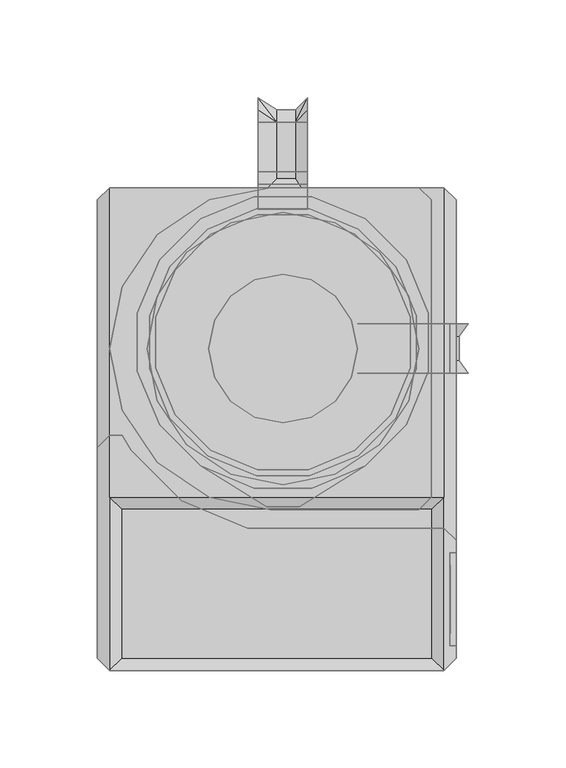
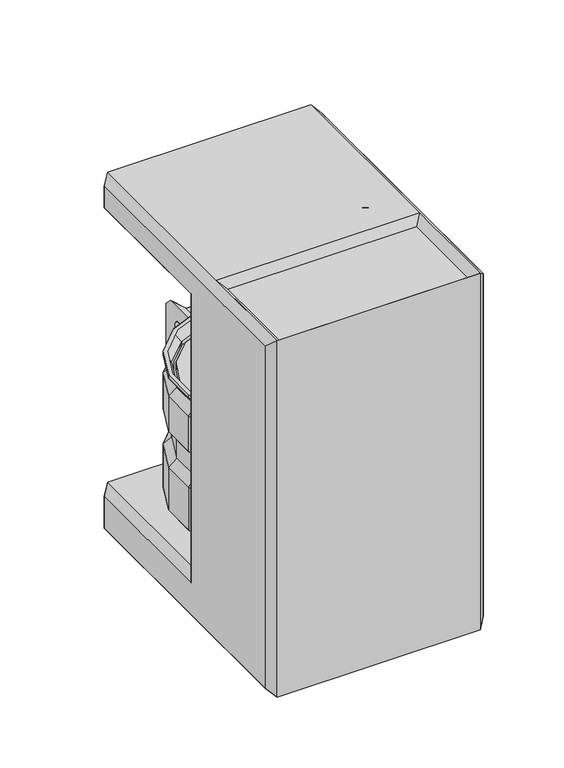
"""IFC4 building model written with IfcOpenShell, lengths in millimetres: proxy geometry, 咖啡機 : 咖啡機."""

import ifcopenshell
import ifcopenshell.guid

model = None  # the IFC model being written
_history = None  # IfcOwnerHistory: only IFC2X3 demands one
_inside = {}  # id of a spatial element -> (the spatial element, [elements in it])
_under = {}  # id of a project, library or spatial element -> (it, [spatial elements below it])
_declared = {}  # id of a project -> (the project, [libraries it declares])
_typed = {}  # id of a type object -> (the type object, [elements of that type])
_made_of = {}  # id of a material, layer set ... -> (it, [elements and type objects made of it])


def new_model(schema):
    """Start an empty IFC model of exactly this schema.

    Asked for "IFC4X3", IfcOpenShell would pick the latest addendum, in which some entities
    have other attributes; the version numbers below select the first issue.
    IFC2X3 requires an IfcOwnerHistory on every rooted entity: one is made here for all.
    """
    global model, _history
    if schema == "IFC4X3":
        model = ifcopenshell.file(schema_version=(4, 3, 0, 0))
    else:
        model = ifcopenshell.file(schema=schema)
    _inside.clear()
    _under.clear()
    _declared.clear()
    _typed.clear()
    _made_of.clear()
    _history = None
    if model.schema == "IFC2X3":
        org = make("IfcOrganization", Name="unknown")
        user = make(
            "IfcPersonAndOrganization",
            ThePerson=make("IfcPerson", FamilyName="unknown"),
            TheOrganization=org,
        )
        app = make(
            "IfcApplication",
            ApplicationDeveloper=org,
            Version="unknown",
            ApplicationFullName="unknown",
            ApplicationIdentifier="unknown",
        )
        _history = make(
            "IfcOwnerHistory",
            OwningUser=user,
            OwningApplication=app,
            ChangeAction="ADDED",
            CreationDate=0,
        )
    return model


def make(cls, **values):
    """One entity of the class cls with the attributes given. An attribute that is None is left unset."""
    return model.create_entity(
        cls, **{name: value for name, value in values.items() if value is not None}
    )


def rooted(cls, **values):
    """An entity with a GlobalId (a new one), such as an element, a storey or a relation."""
    return make(cls, GlobalId=ifcopenshell.guid.new(), OwnerHistory=_history, **values)


def si_unit(unit_type, name, prefix=None):
    """IfcSIUnit, for example si_unit("LENGTHUNIT", "METRE", prefix="MILLI")."""
    return make("IfcSIUnit", UnitType=unit_type, Prefix=prefix, Name=name)


def assignment(units):
    """IfcUnitAssignment: the units of a project."""
    return None if units is None else make("IfcUnitAssignment", Units=units)


def point(xyz):
    """IfcCartesianPoint."""
    return None if xyz is None else make("IfcCartesianPoint", Coordinates=xyz)


def direction(xyz):
    """IfcDirection."""
    return None if xyz is None else make("IfcDirection", DirectionRatios=xyz)


def frame(location, z_axis=None, x_axis=None):
    """IfcAxis2Placement3D, a coordinate frame: its origin and axes. An axis left out is left unset."""
    return make(
        "IfcAxis2Placement3D",
        Location=point(location),
        Axis=direction(z_axis),
        RefDirection=direction(x_axis),
    )


def origin():
    """The frame at (0, 0, 0) with its axes left unset."""
    return frame((0.0, 0.0, 0.0))


def place(relative_to, where):
    """IfcLocalPlacement: puts the frame where relative to a parent placement (None: the world)."""
    return make(
        "IfcLocalPlacement", PlacementRelTo=relative_to, RelativePlacement=where
    )


def context(
    kind, dimensions, precision=None, world=None, true_north=None, identifier=None
):
    """IfcGeometricRepresentationContext, for example the 3D "Model" context."""
    return make(
        "IfcGeometricRepresentationContext",
        ContextIdentifier=identifier,
        ContextType=kind,
        CoordinateSpaceDimension=dimensions,
        Precision=precision,
        WorldCoordinateSystem=world,
        TrueNorth=true_north,
    )


def project(units=None, contexts=None):
    """IfcProject with its units and contexts."""
    return rooted(
        "IfcProject",
        Name="project",
        RepresentationContexts=contexts,
        UnitsInContext=assignment(units),
    )


def spatial(cls, under=None, at=None, **own):
    """A site, building, storey or space (cls), placed at a placement, below another one or the project."""
    s = rooted(cls, ObjectPlacement=at, **own)
    if under is not None:
        _under.setdefault(under.id(), (under, []))[1].append(s)
    return s


def point_list(points):
    """IfcCartesianPointList2D or 3D."""
    cls = (
        "IfcCartesianPointList2D" if len(points[0]) == 2 else "IfcCartesianPointList3D"
    )
    return make(cls, CoordList=points)


def triangles(points, corners, closed=None, point_numbers=None):
    """IfcTriangulatedFaceSet: each triangle names its three corners, points numbered from 1."""
    return make(
        "IfcTriangulatedFaceSet",
        Coordinates=point_list(points),
        Closed=closed,
        CoordIndex=corners,
        PnIndex=point_numbers,
    )


def shape(context_of_items, identifier, shape_type, items):
    """IfcShapeRepresentation: the items that make up one representation, for example the "Body"."""
    return make(
        "IfcShapeRepresentation",
        ContextOfItems=context_of_items,
        RepresentationIdentifier=identifier,
        RepresentationType=shape_type,
        Items=items,
    )


def source(mapping_origin, context_of_items, identifier, shape_type, items):
    """IfcRepresentationMap: a shape defined once, which mapped items show again and again."""
    return make(
        "IfcRepresentationMap",
        MappingOrigin=mapping_origin,
        MappedRepresentation=shape(context_of_items, identifier, shape_type, items),
    )


def transform(
    local_origin,
    x_axis=None,
    y_axis=None,
    z_axis=None,
    scale=None,
    scale2=None,
    scale3=None,
    uniform=True,
):
    """IfcCartesianTransformationOperator3D, or its non-uniform kind. x_axis, y_axis, z_axis: its Axis1, 2, 3."""
    if uniform:
        return make(
            "IfcCartesianTransformationOperator3D",
            Axis1=direction(x_axis),
            Axis2=direction(y_axis),
            LocalOrigin=point(local_origin),
            Scale=scale,
            Axis3=direction(z_axis),
        )
    return make(
        "IfcCartesianTransformationOperator3DnonUniform",
        Axis1=direction(x_axis),
        Axis2=direction(y_axis),
        LocalOrigin=point(local_origin),
        Scale=scale,
        Axis3=direction(z_axis),
        Scale2=scale2,
        Scale3=scale3,
    )


def mapped(mapping_source, mapping_target):
    """IfcMappedItem: shows the shape of a source again, moved by a transform."""
    return make(
        "IfcMappedItem", MappingSource=mapping_source, MappingTarget=mapping_target
    )


def made_of(thing, what):
    """Note that an element or type object is made of a material, layer set ...; save() writes the relation."""
    if what is not None:
        _made_of.setdefault(what.id(), (what, []))[1].append(thing)
    return thing


def element(
    cls,
    number,
    at=None,
    inside=None,
    cuts=None,
    type_object=None,
    material=None,
    context=None,
    identifier="Body",
    shape_type=None,
    held_by="IfcProductDefinitionShape",
    body=None,
    shapes=None,
    **own,
):
    """One element of the class cls, such as IfcWall. Its Tag is "e" and its number.

    at: its placement. inside: the storey or other place that contains it. cuts: it is an
    opening in that element (IfcRelVoidsElement). A single representation is given by context,
    identifier, shape_type and body (its items); several are given by shapes. held_by: the class
    of the entity that holds the representations. save() writes the other relations.
    """
    e = rooted(cls, Tag="e%d" % number, ObjectPlacement=at, **own)
    if body is not None:
        shapes = [shape(context, identifier, shape_type, body)]
    if shapes is not None:
        e.Representation = make(held_by, Representations=shapes)
    if inside is not None:
        _inside.setdefault(inside.id(), (inside, []))[1].append(e)
    if cuts is not None:
        rooted(
            "IfcRelVoidsElement", RelatingBuildingElement=cuts, RelatedOpeningElement=e
        )
    if type_object is not None:
        _typed.setdefault(type_object.id(), (type_object, []))[1].append(e)
    return made_of(e, material)


def aggregate(whole, parts):
    """IfcRelAggregates: a whole, such as a stair, and the parts it consists of."""
    return rooted("IfcRelAggregates", RelatingObject=whole, RelatedObjects=parts)


def save(model, path):
    """Write the relations noted so far, then the file.

    IfcRelAggregates (storeys below a building ...), IfcRelContainedInSpatialStructure (elements
    in a storey), IfcRelDefinesByType, IfcRelAssociatesMaterial and IfcRelDeclares: one each for
    every whole, place, type object, material and project.
    """
    for whole, parts in _under.values():
        aggregate(whole, parts)
    for where, things in _inside.values():
        rooted(
            "IfcRelContainedInSpatialStructure",
            RelatedElements=things,
            RelatingStructure=where,
        )
    for kind, things in _typed.values():
        rooted("IfcRelDefinesByType", RelatedObjects=things, RelatingType=kind)
    for what, things in _made_of.values():
        rooted("IfcRelAssociatesMaterial", RelatedObjects=things, RelatingMaterial=what)
    for by, libraries in _declared.values():
        rooted("IfcRelDeclares", RelatingContext=by, RelatedDefinitions=libraries)
    model.write(path)


def specialty_equipment_c866d2f4(model_context):
    return source(origin(), model_context, "Body", "Tessellation", [
        triangles([(165.1000061, 247.65, 282.5749939), (165.1000061, 247.65, 285.75), (171.45, 241.3000061, 285.7499818), (171.45, 241.3000061, 282.5749758), (144.6414165, 214.4914135, 282.5749939), (144.6414165, 214.4914135, 285.75), (121.9804451, 229.6329856, 285.75), (121.9804451, 229.6329856, 282.5749939), (159.7829796, 191.830442, 285.75), (159.7829796, 191.830442, 282.5749939), (68.519564, 229.6329856, 282.5749939), (57.3094788, 241.3662447, 282.5749758), (95.25, 234.9499939, 282.5749758), (88.899997, 247.65, 282.5749939), (57.3094788, 241.3662447, 285.7499818), (68.519564, 229.6329856, 285.75), (88.899997, 247.65, 285.75), (95.25, 234.9499939, 285.7499818), (45.8585926, 214.4914135, 285.75), (45.8585926, 214.4914135, 282.5749939), (165.1000061, 177.7999939, 282.5749939), (169.8625061, 171.45, 282.5749758), (184.1500061, 177.7999939, 282.5749939), (180.975, 171.45, 279.4000061), (190.5, 177.7999939, 276.225), (180.975, 177.7999939, 273.0499939), (177.7999939, 177.7999939, 276.225), (162.3176541, 177.7999939, 276.225), (185.7375, 171.45, 274.6375061), (165.1000061, 82.5500121, 282.5749939), (165.1000061, 82.5500121, 285.75), (171.45, 88.9000151, 282.5749939), (171.45, 88.9000151, 285.75), (68.519564, 100.5670265, 282.5749758), (57.3094788, 88.8337583, 282.5749939), (95.25, 95.2500091, 282.5749939), (88.899997, 82.5500121, 282.5749939), (57.3094788, 88.8337583, 285.75), (68.519564, 100.5670265, 285.7499818), (88.899997, 82.5500121, 285.75), (95.25, 95.2500091, 285.75), (159.7829796, 138.369561, 282.5749939), (159.7829796, 138.369561, 285.75), (144.6414165, 115.7085895, 285.75), (144.6414165, 115.7085895, 282.5749939), (121.9804451, 100.5670265, 285.7499818), (121.9804451, 100.5670265, 282.5749758), (45.8585926, 115.7085895, 285.75), (45.8585926, 115.7085895, 282.5749939), (165.1000061, 165.1000061, 282.5749939), (165.1000061, 165.1000061, 285.75), (180.975, 158.7499939, 279.4000061), (169.8625061, 158.7499939, 282.5749939), (184.1500061, 152.4, 282.5749939), (165.1000061, 152.4, 282.5749939), (180.975, 152.4, 273.0499939), (190.5, 152.4, 276.225), (177.7999939, 152.4, 276.225), (162.3176541, 152.4, 276.225), (185.7375, 158.7499939, 274.6375061), (12.6337435, 196.6905197, 285.75), (12.6337435, 196.6905197, 282.5749939), (30.5283328, 223.4716611, 282.5749939), (30.5283328, 223.4716611, 285.75), (25.4000008, 165.1000061, 282.5749939), (6.3500002, 165.1000061, 282.5749939), (30.7170136, 138.369561, 282.5749939), (12.6337435, 133.5094834, 282.5749939), (6.3500002, 165.1000061, 285.75), (25.4000008, 165.1000061, 285.75), (12.6337435, 133.5094834, 285.75), (30.7170136, 138.369561, 285.75), (30.5283328, 106.7283328, 282.5749939), (30.5283328, 106.7283328, 285.75), (30.7170136, 191.830442, 282.5749939), (30.7170136, 191.830442, 285.75), (180.975, 152.4, 193.6749879), (180.975, 177.7999939, 193.6749879), (177.7999939, 177.7999939, 190.4999818), (177.7999939, 152.4, 190.4999818), (180.975, 158.7499939, 185.7374818), (180.975, 171.45, 185.7374818), (185.7375, 158.7499939, 190.4999818), (185.7375, 171.45, 190.4999818), (133.35, 152.4, 190.4999818), (133.35, 177.7999939, 190.4999818), (133.35, 158.7499939, 185.7374818), (133.35, 171.45, 185.7374818), (95.25, 203.2000061, 212.7250061), (80.6697581, 200.2998197, 212.7250061), (109.8302419, 200.2998197, 212.7250061), (122.1907702, 192.0407671, 212.7250061), (130.4498137, 179.6802389, 212.7250061), (133.35, 165.1000061, 212.7250061), (130.4498137, 150.5197641, 212.7250061), (122.1907702, 138.1592268, 212.7250061), (109.8302419, 129.9001833, 212.7250061), (95.25, 126.999997, 212.7250061), (80.6697581, 129.9001833, 212.7250061), (60.0501909, 179.6802389, 212.7250061), (57.15, 165.1000061, 212.7250061), (68.3092344, 192.0407671, 212.7250061), (68.3092344, 138.1592268, 212.7250061), (60.0501909, 150.5197641, 212.7250061), (190.5, 152.4, 187.3249939), (190.5, 177.7999939, 187.3249939), (184.1500061, 177.7999939, 180.9749818), (184.1500061, 152.4, 180.9749818), (133.35, 177.7999939, 180.9749818), (133.35, 152.4, 180.9749818), (95.25, 203.2000061, 174.6249879), (80.6697581, 200.2998197, 174.6249879), (68.3092344, 192.0407671, 174.6249879), (60.0501909, 179.6802389, 174.6249879), (57.15, 165.1000061, 174.6249879), (109.8302419, 200.2998197, 174.6249879), (122.1907702, 192.0407671, 174.6249879), (130.4498137, 179.6802389, 174.6249879), (133.35, 165.1000061, 174.6249879), (130.4498137, 150.5197641, 174.6249879), (122.1907702, 138.1592268, 174.6249879), (109.8302419, 129.9001833, 174.6249879), (95.25, 126.999997, 174.6249879), (80.6697581, 129.9001833, 174.6249879), (68.3092344, 138.1592268, 174.6249879), (60.0501909, 150.5197641, 174.6249879)], [[1, 2, 3], [3, 4, 1], [5, 6, 7], [7, 8, 5], [9, 10, 6], [6, 5, 10], [11, 12, 13], [14, 13, 12], [15, 16, 17], [18, 17, 16], [12, 15, 14], [17, 14, 15], [8, 7, 18], [18, 13, 8], [16, 11, 18], [13, 18, 11], [19, 20, 16], [11, 16, 20], [13, 14, 1], [1, 8, 13], [17, 18, 2], [7, 2, 18], [14, 17, 2], [2, 1, 14], [8, 1, 5], [4, 5, 1], [2, 7, 6], [6, 3, 2], [21, 22, 23], [23, 22, 24], [25, 26, 23], [27, 23, 26], [23, 27, 28], [28, 21, 23], [23, 24, 29], [29, 25, 23], [30, 31, 32], [33, 32, 31], [34, 35, 36], [37, 36, 35], [38, 39, 40], [41, 40, 39], [35, 38, 37], [40, 37, 38], [42, 43, 44], [44, 45, 42], [45, 44, 46], [46, 47, 45], [47, 46, 41], [41, 36, 47], [39, 34, 41], [36, 41, 34], [48, 49, 39], [34, 39, 49], [36, 37, 30], [30, 47, 36], [40, 41, 31], [46, 31, 41], [37, 40, 30], [31, 30, 40], [50, 51, 43], [43, 42, 50], [42, 45, 32], [42, 32, 50], [44, 43, 33], [33, 43, 51], [47, 30, 45], [32, 45, 30], [31, 46, 44], [44, 33, 31], [52, 53, 54], [54, 53, 55], [56, 57, 54], [54, 58, 56], [58, 54, 59], [55, 59, 54], [52, 54, 57], [57, 60, 52], [52, 24, 22], [22, 53, 52], [32, 4, 50], [6, 9, 3], [9, 3, 51], [3, 33, 51], [5, 10, 4], [4, 10, 50], [32, 33, 3], [4, 3, 32], [51, 50, 9], [10, 9, 50], [58, 27, 26], [26, 56, 58], [59, 28, 58], [27, 58, 28], [60, 29, 52], [24, 52, 29], [61, 62, 63], [63, 64, 61], [65, 66, 67], [68, 67, 66], [69, 70, 71], [72, 71, 70], [66, 69, 68], [71, 68, 69], [68, 71, 73], [74, 73, 71], [70, 65, 72], [67, 72, 65], [66, 65, 75], [75, 62, 66], [70, 69, 61], [61, 76, 70], [69, 66, 62], [62, 61, 69], [65, 70, 76], [76, 75, 65], [76, 61, 64], [64, 19, 76], [62, 75, 20], [20, 63, 62], [75, 76, 19], [20, 19, 75], [67, 68, 49], [73, 49, 68], [71, 72, 74], [48, 74, 72], [72, 67, 48], [49, 48, 67], [19, 64, 15], [16, 15, 19], [49, 73, 34], [35, 34, 73], [74, 48, 38], [39, 38, 48], [63, 20, 11], [11, 12, 63], [64, 63, 12], [15, 12, 64], [73, 74, 35], [38, 35, 74], [77, 78, 79], [79, 80, 77], [81, 82, 83], [84, 83, 82], [80, 79, 85], [86, 85, 79], [87, 88, 82], [82, 81, 87], [89, 13, 90], [11, 90, 13], [91, 8, 89], [89, 13, 8], [92, 5, 91], [8, 91, 5], [93, 10, 92], [5, 92, 10], [94, 50, 93], [10, 93, 50], [95, 42, 94], [94, 50, 42], [96, 45, 95], [95, 42, 45], [97, 47, 96], [45, 96, 47], [98, 36, 97], [97, 47, 36], [99, 34, 98], [98, 36, 34], [100, 75, 101], [101, 65, 75], [102, 20, 100], [75, 100, 20], [90, 11, 102], [20, 102, 11], [103, 49, 99], [99, 34, 49], [104, 67, 103], [103, 49, 67], [101, 65, 104], [67, 104, 65], [60, 57, 83], [105, 83, 57], [77, 105, 56], [57, 56, 105], [106, 78, 26], [26, 25, 106], [25, 29, 106], [84, 106, 29], [56, 26, 77], [78, 77, 26], [83, 84, 29], [29, 60, 83], [107, 79, 106], [78, 106, 79], [80, 108, 105], [105, 77, 80], [82, 107, 84], [106, 84, 107], [108, 81, 83], [83, 105, 108], [88, 109, 107], [107, 82, 88], [109, 86, 79], [79, 107, 109], [110, 87, 108], [81, 108, 87], [85, 110, 80], [108, 80, 110], [111, 89, 112], [90, 112, 89], [112, 90, 113], [102, 113, 90], [114, 100, 115], [101, 115, 100], [113, 102, 114], [100, 114, 102], [116, 91, 111], [89, 111, 91], [117, 92, 116], [91, 116, 92], [118, 93, 117], [92, 117, 93], [119, 94, 118], [93, 118, 94], [120, 95, 119], [94, 119, 95], [121, 96, 120], [95, 120, 96], [122, 97, 121], [96, 121, 97], [123, 98, 122], [97, 122, 98], [124, 99, 123], [98, 123, 99], [125, 103, 124], [99, 124, 103], [126, 104, 125], [103, 125, 104], [115, 101, 126], [104, 126, 101]], closed=False),
        triangles([(137.5844527, 231.6329726, 171.45), (137.5844527, 231.6329726, 168.2749939), (110.1158804, 243.0108391, 168.2749939), (110.1158804, 243.0108391, 171.4499818), (109.4964687, 239.8968395, 171.4499818), (80.3841196, 243.0108391, 171.4499818), (81.0035313, 239.8968395, 171.4499818), (80.3841196, 243.0108391, 168.2749939), (52.9155519, 231.6329726, 168.2749939), (52.9155519, 231.6329726, 171.45), (108.8770661, 236.7828581, 161.9249818), (108.8770661, 236.7828581, 158.7499939), (81.622943, 236.7828581, 158.7499939), (81.622943, 236.7828581, 161.9249818), (110.1158804, 243.0108391, 152.3999909), (80.3841196, 243.0108391, 152.3999909), (34.5319288, 208.845519, 171.45), (31.8920146, 210.6094557, 171.45), (20.5141616, 183.1408743, 171.45), (23.6281544, 182.5214717, 171.45), (31.8920146, 210.6094557, 168.2749939), (20.5141616, 183.1408743, 168.2749939), (153.3281592, 207.0815642, 161.925), (153.3281592, 207.0815642, 158.7499939), (134.0565793, 226.353135, 158.7499939), (134.0565793, 226.353135, 161.925), (56.4434161, 226.353135, 161.925), (56.4434161, 226.353135, 158.7499939), (37.1718476, 207.0815642, 158.7499939), (37.1718476, 207.0815642, 161.925), (26.7421472, 181.9020691, 158.7499939), (26.7421472, 181.9020691, 161.925), (31.8920146, 210.6094557, 152.4), (20.5141616, 183.1408743, 152.4), (23.6281544, 154.0285343, 171.45), (20.5141616, 153.4091136, 171.45), (31.8920146, 125.9405413, 171.45), (34.5319288, 127.704487, 171.45), (20.5141616, 153.4091136, 168.2749939), (31.8920146, 125.9405413, 168.2749939), (26.7421472, 154.6479369, 161.925), (26.7421472, 154.6479369, 158.7499939), (37.1718476, 129.4684146, 158.7499939), (37.1718476, 129.4684146, 161.925), (20.5141616, 153.4091136, 152.4), (31.8920146, 125.9405413, 152.4), (135.820516, 228.9930719, 171.45), (54.6794795, 228.9930719, 171.45), (137.5844527, 231.6329726, 152.4), (52.9155519, 231.6329726, 152.4), (31.8920146, 210.6094557, 120.650003), (20.5141616, 183.1408743, 120.650003), (52.9155519, 231.6329726, 120.650003), (80.3841196, 243.0108391, 120.6499849), (110.1158804, 243.0108391, 120.6499849), (107.949997, 243.0109481, 120.6499849), (82.550003, 243.0109481, 120.6499849), (82.550003, 243.0109481, 152.3999909), (107.949997, 243.0109481, 152.3999909), (137.5844527, 231.6329726, 120.650003), (20.5141616, 153.4091136, 120.650003), (31.8920146, 125.9405413, 120.650003), (103.1464657, 87.1281665, 168.2750121), (103.7658774, 84.014176, 168.2750121), (137.5844527, 104.9170244, 171.45), (135.820516, 107.556925, 171.45), (87.3535252, 87.1281665, 168.2750121), (86.7341226, 84.014176, 168.2750121), (52.9155519, 104.9170244, 171.45), (54.6794795, 107.556925, 171.45), (108.8770661, 99.7671571, 158.7499939), (108.8770661, 99.7671571, 155.5750061), (134.0565793, 110.1968438, 158.7499939), (134.0565793, 110.1968438, 161.925), (86.7341226, 84.014176, 165.1000061), (81.622943, 99.7671571, 158.7499939), (103.7658774, 84.014176, 165.1000061), (56.4434161, 110.1968438, 161.925), (56.4434161, 110.1968438, 158.7499939), (81.622943, 99.7671571, 155.5750061), (110.1158804, 93.539176, 152.4000182), (137.5844527, 104.9170244, 152.4), (80.3841196, 93.539176, 152.4000182), (52.9155519, 104.9170244, 152.4), (137.5844527, 104.9170244, 168.2749939), (52.9155519, 104.9170244, 168.2749939), (80.3841196, 93.5391578, 120.6500121), (110.1158804, 93.5391578, 120.6500121), (52.9155519, 104.9170244, 120.650003), (137.5844527, 104.9170244, 120.650003), (153.3281592, 129.4684146, 158.7499939), (153.3281592, 129.4684146, 161.925), (107.949997, 243.0109481, 88.899997), (82.550003, 243.0109481, 88.899997), (107.949997, 236.660936, 95.2499909), (82.550003, 236.660936, 95.2499909), (108.8770661, 236.7828581, 95.2499909), (110.1158804, 243.0108391, 88.899997), (80.3841196, 243.0108391, 88.899997), (81.622943, 236.7828581, 95.2499909), (37.1718476, 207.0815642, 95.2499909), (31.8920146, 210.6094557, 88.899997), (20.5141616, 183.1408743, 88.899997), (26.7421472, 181.9020691, 95.25), (26.7421472, 154.6479369, 95.25), (20.5141616, 153.4091136, 88.899997), (31.8920146, 125.9405413, 88.9000061), (37.1718476, 129.4684146, 95.25), (134.0565793, 226.353135, 95.2499909), (137.5844527, 231.6329726, 88.899997), (52.9155519, 231.6329726, 88.899997), (56.4434161, 226.353135, 95.2499909), (108.8770661, 99.7671571, 95.2500091), (110.1158804, 93.5391669, 88.9000061), (137.5844527, 104.9170244, 88.9000061), (134.0565793, 110.1968438, 95.2500091), (56.4434161, 110.1968438, 95.2500091), (52.9155519, 104.9170244, 88.9000061), (80.3841196, 93.5391669, 88.9000061), (81.622943, 99.7671571, 95.2500091), (134.0565793, 226.353135, 114.3), (108.8770661, 236.7828581, 114.2999909), (107.949997, 236.660936, 114.2999909), (82.550003, 236.660936, 114.2999909), (81.622943, 236.7828581, 114.2999909), (56.4434161, 226.353135, 114.3), (37.1718476, 207.0815642, 114.3), (26.7421472, 181.9020691, 114.3), (108.8770661, 99.767148, 114.3), (134.0565793, 110.1968438, 114.3), (37.1718476, 129.4684146, 114.3), (56.4434161, 110.1968438, 114.3), (81.622943, 99.767148, 114.3), (26.7421472, 154.6479369, 114.3), (169.985827, 183.1408743, 171.45), (169.985827, 183.1408743, 168.2749939), (158.6079786, 210.6094557, 168.2749939), (158.6079786, 210.6094557, 171.45), (158.6079786, 125.9405413, 171.45), (158.6079786, 125.9405413, 168.2749939), (169.985827, 153.4091136, 168.2749939), (169.985827, 153.4091136, 171.45), (166.8718456, 154.0285343, 171.45), (166.8718456, 182.5214717, 171.45), (163.757846, 154.6479369, 161.925), (163.757846, 181.9020691, 161.925), (163.757846, 154.6479369, 158.7499939), (163.757846, 181.9020691, 158.7499939), (169.985827, 153.4091136, 152.4), (169.985827, 183.1408743, 152.4), (169.985827, 183.1408743, 120.650003), (158.6079786, 210.6094557, 120.650003), (158.6079786, 210.6094557, 152.4), (158.6079786, 125.9405413, 152.4), (158.6079786, 125.9405413, 120.650003), (169.985827, 153.4091136, 120.650003), (163.757846, 154.6479369, 95.25), (169.985827, 153.4091136, 88.899997), (169.985827, 183.1408743, 88.899997), (163.757846, 181.9020691, 95.25), (163.757846, 154.6479369, 114.3), (163.757846, 181.9020691, 114.3), (155.968078, 208.845519, 171.45), (158.6079786, 210.6094557, 88.899997), (153.3281592, 207.0815642, 95.2499909), (153.3281592, 207.0815642, 114.3), (155.968078, 127.704487, 171.45), (158.6079786, 125.9405413, 88.9000061), (153.3281592, 129.4684146, 95.25), (153.3281592, 129.4684146, 114.3), (110.1158804, 243.0108391, 50.8000015), (108.8770661, 236.7828581, 44.4499939), (81.622943, 236.7828581, 44.4499939), (80.3841196, 243.0108391, 50.8000015), (37.1718476, 207.0815642, 44.4499985), (50.3714303, 198.261899, 44.4499985), (42.3121157, 178.8050016, 44.4500076), (26.7421472, 181.9020691, 44.4499985), (56.4434161, 226.353135, 44.4499939), (65.2630949, 213.1535773, 44.450003), (31.8920146, 210.6094557, 50.8000015), (20.5141616, 183.1408743, 50.799997), (153.3281592, 207.0815642, 44.4499985), (140.1285743, 198.261899, 44.4499985), (125.2369051, 213.1535773, 44.450003), (134.0565793, 226.353135, 44.4499939), (55.6512588, 194.7340257, 38.0999977), (48.5401013, 177.5661783, 38.1000045), (68.7909682, 207.8737397, 38.1000045), (84.7200014, 221.2128782, 44.4499939), (85.9588248, 214.9848972, 38.1000045), (105.7799986, 221.2128782, 44.4499939), (104.5411752, 214.9848972, 38.1000045), (134.8487457, 194.7340257, 38.0999977), (121.7090318, 207.8737397, 38.1000045), (148.1878934, 178.8050016, 44.4500076), (141.9599032, 177.5661783, 38.1000045), (26.7421472, 154.6479369, 44.4499985), (42.3121157, 157.7450044, 44.4499985), (50.3714303, 138.2880979, 44.450003), (37.1718476, 129.4684146, 44.450003), (20.5141616, 153.4091136, 50.8000015), (31.8920146, 125.9405413, 50.8000106), (65.2630949, 123.3964288, 44.450003), (68.7909682, 128.6762573, 38.1000045), (85.9588248, 121.5650998, 38.1000045), (84.7200014, 115.3371097, 44.450003), (105.7799986, 115.3371097, 44.450003), (104.5411752, 121.5650998, 38.1000045), (121.7090318, 128.6762573, 38.1000045), (125.2369051, 123.3964288, 44.450003), (55.6512588, 141.8159713, 38.1000091), (48.5401013, 158.9838278, 38.1), (134.8487457, 141.8159713, 38.1000091), (140.1285743, 138.2880979, 44.450003), (141.9599032, 158.9838278, 38.1), (148.1878934, 157.7450044, 44.4499985), (95.25, 168.2749939, 38.1), (52.9155519, 231.6329726, 50.7999924), (137.5844527, 231.6329726, 50.7999924), (80.3841196, 93.5391578, 50.8000061), (81.622943, 99.7671389, 44.4500076), (108.8770661, 99.7671389, 44.4500076), (110.1158804, 93.5391578, 50.8000061), (52.9155519, 104.9170244, 50.8000106), (56.4434161, 110.1968438, 44.4500121), (134.0565793, 110.1968438, 44.4500121), (137.5844527, 104.9170244, 50.8000106), (153.3281592, 129.4684146, 44.450003), (169.985827, 153.4091136, 50.8000015), (163.757846, 154.6479369, 44.4499985), (163.757846, 181.9020691, 44.4499985), (169.985827, 183.1408743, 50.799997), (158.6079786, 210.6094557, 50.8000015), (158.6079786, 125.9405413, 50.8000106), (107.949997, 243.0109481, 50.8000015), (82.550003, 243.0109481, 50.8000015)], [[1, 2, 3], [3, 4, 1], [5, 4, 6], [6, 7, 5], [4, 3, 8], [8, 6, 4], [6, 8, 9], [9, 10, 6], [11, 12, 13], [13, 14, 11], [12, 15, 16], [16, 13, 12], [3, 11, 14], [14, 8, 3], [17, 18, 19], [19, 20, 17], [18, 21, 22], [22, 19, 18], [23, 24, 25], [25, 26, 23], [27, 28, 29], [29, 30, 27], [30, 29, 31], [31, 32, 30], [29, 33, 34], [34, 31, 29], [21, 30, 32], [32, 22, 21], [35, 36, 37], [37, 38, 35], [36, 39, 40], [40, 37, 36], [41, 42, 43], [43, 44, 41], [42, 45, 46], [46, 43, 42], [39, 41, 44], [44, 40, 39], [20, 19, 36], [36, 35, 20], [19, 22, 39], [39, 36, 19], [22, 32, 41], [41, 39, 22], [32, 31, 42], [42, 41, 32], [31, 34, 45], [45, 42, 31], [47, 1, 4], [4, 5, 47], [7, 6, 10], [10, 48, 7], [48, 10, 18], [18, 17, 48], [10, 9, 21], [21, 18, 10], [26, 25, 12], [12, 11, 26], [14, 13, 28], [28, 27, 14], [25, 49, 15], [15, 12, 25], [13, 16, 50], [50, 28, 13], [28, 50, 33], [33, 29, 28], [2, 26, 11], [11, 3, 2], [8, 14, 27], [27, 9, 8], [9, 27, 30], [30, 21, 9], [33, 51, 52], [52, 34, 33], [50, 53, 51], [51, 33, 50], [16, 54, 53], [53, 50, 16], [15, 55, 54], [54, 16, 15], [56, 57, 58], [58, 59, 56], [49, 60, 55], [55, 15, 49], [45, 61, 62], [62, 46, 45], [34, 52, 61], [61, 45, 34], [63, 64, 65], [63, 65, 66], [67, 68, 64], [64, 63, 67], [69, 68, 67], [69, 67, 70], [71, 72, 73], [73, 74, 71], [75, 76, 71], [71, 77, 75], [78, 79, 80], [80, 76, 78], [72, 81, 82], [72, 82, 73], [76, 80, 72], [72, 71, 76], [80, 83, 81], [81, 72, 80], [84, 83, 80], [84, 80, 79], [71, 74, 85], [71, 85, 77], [86, 78, 76], [86, 76, 75], [64, 77, 85], [85, 65, 64], [68, 75, 77], [77, 64, 68], [69, 86, 75], [75, 68, 69], [83, 87, 88], [88, 81, 83], [84, 89, 87], [87, 83, 84], [81, 88, 90], [90, 82, 81], [38, 37, 69], [69, 70, 38], [37, 40, 86], [86, 69, 37], [74, 73, 91], [91, 92, 74], [44, 43, 79], [79, 78, 44], [43, 46, 84], [84, 79, 43], [40, 44, 78], [78, 86, 40], [46, 62, 89], [89, 84, 46], [93, 94, 95], [96, 95, 94], [97, 98, 99], [99, 100, 97], [101, 102, 103], [103, 104, 101], [105, 106, 107], [107, 108, 105], [104, 103, 106], [106, 105, 104], [109, 110, 98], [98, 97, 109], [100, 99, 111], [111, 112, 100], [112, 111, 102], [102, 101, 112], [113, 114, 115], [115, 116, 113], [117, 118, 119], [119, 120, 117], [120, 119, 114], [114, 113, 120], [108, 107, 118], [118, 117, 108], [60, 121, 122], [122, 55, 60], [123, 124, 56], [57, 56, 124], [55, 122, 125], [125, 54, 55], [54, 125, 126], [126, 53, 54], [53, 126, 127], [127, 51, 53], [51, 127, 128], [128, 52, 51], [88, 129, 130], [130, 90, 88], [62, 131, 132], [132, 89, 62], [89, 132, 133], [133, 87, 89], [87, 133, 129], [129, 88, 87], [61, 134, 131], [131, 62, 61], [52, 128, 134], [134, 61, 52], [135, 136, 137], [137, 138, 135], [139, 140, 141], [141, 142, 139], [143, 142, 135], [135, 144, 143], [142, 141, 136], [136, 135, 142], [141, 145, 146], [146, 136, 141], [145, 147, 148], [148, 146, 145], [147, 149, 150], [150, 148, 147], [150, 151, 152], [152, 153, 150], [154, 155, 156], [156, 149, 154], [149, 156, 151], [151, 150, 149], [157, 158, 159], [159, 160, 157], [156, 161, 162], [162, 151, 156], [146, 148, 24], [24, 23, 146], [148, 150, 153], [153, 24, 148], [24, 153, 49], [49, 25, 24], [144, 135, 138], [138, 163, 144], [136, 146, 23], [23, 137, 136], [163, 138, 1], [1, 47, 163], [138, 137, 2], [2, 1, 138], [137, 23, 26], [26, 2, 137], [160, 159, 164], [164, 165, 160], [165, 164, 110], [110, 109, 165], [151, 162, 166], [166, 152, 151], [152, 166, 121], [121, 60, 152], [153, 152, 60], [60, 49, 153], [92, 91, 147], [147, 145, 92], [73, 82, 154], [154, 91, 73], [91, 154, 149], [149, 147, 91], [66, 65, 139], [139, 167, 66], [65, 85, 140], [140, 139, 65], [85, 74, 92], [92, 140, 85], [167, 139, 142], [142, 143, 167], [140, 92, 145], [145, 141, 140], [116, 115, 168], [168, 169, 116], [169, 168, 158], [158, 157, 169], [90, 130, 170], [170, 155, 90], [155, 170, 161], [161, 156, 155], [82, 90, 155], [155, 154, 82], [171, 172, 173], [173, 174, 171], [175, 176, 177], [177, 178, 175], [179, 180, 176], [176, 175, 179], [181, 175, 178], [178, 182, 181], [183, 184, 185], [185, 186, 183], [176, 187, 188], [188, 177, 176], [180, 189, 187], [187, 176, 180], [190, 191, 189], [189, 180, 190], [192, 193, 191], [191, 190, 192], [184, 194, 195], [195, 185, 184], [196, 197, 194], [194, 184, 196], [185, 195, 193], [193, 192, 185], [198, 199, 200], [200, 201, 198], [202, 198, 201], [201, 203, 202], [204, 205, 206], [206, 207, 204], [208, 209, 210], [210, 211, 208], [200, 212, 205], [205, 204, 200], [199, 213, 212], [212, 200, 199], [211, 210, 214], [214, 215, 211], [215, 214, 216], [216, 217, 215], [207, 206, 209], [209, 208, 207], [206, 218, 209], [205, 218, 206], [212, 218, 205], [210, 218, 214], [209, 218, 210], [213, 218, 212], [214, 218, 216], [178, 177, 199], [199, 198, 178], [182, 178, 198], [198, 202, 182], [177, 188, 213], [213, 199, 177], [217, 216, 197], [197, 196, 217], [188, 218, 213], [216, 218, 197], [187, 218, 188], [189, 218, 187], [191, 218, 189], [193, 218, 191], [195, 218, 193], [194, 218, 195], [197, 218, 194], [173, 190, 180], [180, 179, 173], [172, 192, 190], [190, 173, 172], [219, 179, 175], [175, 181, 219], [174, 173, 179], [179, 219, 174], [186, 185, 192], [192, 172, 186], [220, 186, 172], [172, 171, 220], [221, 222, 223], [223, 224, 221], [225, 226, 222], [222, 221, 225], [224, 223, 227], [227, 228, 224], [201, 200, 204], [204, 226, 201], [222, 207, 208], [208, 223, 222], [226, 204, 207], [207, 222, 226], [203, 201, 226], [226, 225, 203], [227, 211, 215], [215, 229, 227], [223, 208, 211], [211, 227, 223], [230, 231, 232], [232, 233, 230], [232, 196, 184], [184, 183, 232], [234, 183, 186], [186, 220, 234], [233, 232, 183], [183, 234, 233], [229, 215, 217], [217, 231, 229], [235, 229, 231], [231, 230, 235], [228, 227, 229], [229, 235, 228], [231, 217, 196], [196, 232, 231], [158, 230, 233], [233, 159, 158], [103, 182, 202], [202, 106, 103], [114, 224, 228], [228, 115, 114], [115, 228, 235], [235, 168, 115], [168, 235, 230], [230, 158, 168], [107, 203, 225], [225, 118, 107], [118, 225, 221], [221, 119, 118], [119, 221, 224], [224, 114, 119], [106, 202, 203], [203, 107, 106], [110, 220, 171], [171, 98, 110], [159, 233, 234], [234, 164, 159], [164, 234, 220], [220, 110, 164], [236, 237, 94], [94, 93, 236], [98, 171, 174], [174, 99, 98], [99, 174, 219], [219, 111, 99], [111, 219, 181], [181, 102, 111], [102, 181, 182], [182, 103, 102]], closed=False),
        triangles([(92.075003, 281.1109481, 146.049997), (101.600003, 281.1109481, 146.049997), (101.600003, 287.4609421, 136.524997), (92.075003, 287.4609421, 136.524997), (107.949997, 249.3609421, 139.700003), (82.550003, 249.3609421, 139.700003), (82.550003, 277.9359421, 139.700003), (107.949997, 277.9359421, 139.700003), (92.075003, 252.5359481, 146.049997), (101.600003, 252.5359481, 146.049997), (107.949997, 281.1109481, 136.524997), (82.550003, 281.1109481, 136.524997), (82.550003, 287.4609421, 152.4), (82.550003, 293.810936, 146.049997), (107.949997, 287.4609421, 152.4), (107.949997, 293.810936, 146.049997), (82.550003, 243.0109481, 152.4), (107.949997, 243.0109481, 152.4), (82.550003, 255.710936, 101.600003), (82.550003, 249.3609421, 95.25), (82.550003, 236.660936, 95.25), (82.550003, 243.0109481, 88.899997), (107.949997, 249.3609421, 95.25), (107.949997, 255.710936, 101.600003), (107.949997, 236.660936, 95.25), (107.949997, 243.0109481, 88.899997), (107.949997, 255.710936, 107.949997), (82.550003, 255.710936, 107.949997), (82.550003, 249.3609421, 114.3), (107.949997, 249.3609421, 114.3), (82.550003, 236.660936, 114.3), (107.949997, 236.660936, 114.3), (92.075003, 281.1109481, 57.15), (101.600003, 281.1109481, 57.15), (92.075003, 252.5359481, 57.15), (101.600003, 252.5359481, 57.15), (107.949997, 281.1109481, 66.675), (82.550003, 281.1109481, 66.675), (107.949997, 277.9359421, 63.4999985), (82.550003, 277.9359421, 63.4999985), (82.550003, 249.3609421, 63.4999985), (107.949997, 249.3609421, 63.4999985), (92.075003, 287.4609421, 66.675), (101.600003, 287.4609421, 66.675), (107.949997, 243.0109481, 120.650003), (82.550003, 243.0109481, 120.650003), (107.949997, 293.810936, 57.15), (82.550003, 293.810936, 57.15), (107.949997, 243.0109481, 50.8000015), (82.550003, 243.0109481, 50.8000015), (107.949997, 287.4609421, 50.799997), (82.550003, 287.4609421, 50.799997)], [[1, 2, 3], [3, 4, 1], [5, 6, 7], [7, 8, 5], [9, 10, 1], [2, 1, 10], [8, 7, 11], [12, 11, 7], [7, 13, 14], [14, 12, 7], [15, 8, 16], [11, 16, 8], [1, 4, 14], [1, 14, 13], [15, 16, 2], [2, 16, 3], [6, 17, 7], [13, 7, 17], [18, 5, 8], [8, 15, 18], [17, 9, 13], [1, 13, 9], [15, 2, 10], [10, 18, 15], [17, 18, 9], [10, 9, 18], [19, 20, 21], [21, 20, 22], [23, 24, 25], [23, 25, 26], [27, 28, 29], [29, 30, 27], [23, 20, 19], [19, 24, 23], [19, 21, 31], [31, 28, 19], [25, 24, 32], [27, 32, 24], [24, 19, 27], [28, 27, 19], [33, 34, 35], [36, 35, 34], [37, 38, 39], [40, 39, 38], [39, 40, 41], [41, 42, 39], [43, 44, 34], [34, 33, 43], [42, 41, 23], [20, 23, 41], [45, 30, 18], [5, 18, 30], [29, 46, 17], [17, 6, 29], [30, 29, 5], [6, 5, 29], [11, 12, 38], [38, 37, 11], [4, 3, 43], [44, 43, 3], [16, 11, 37], [37, 47, 16], [12, 14, 38], [48, 38, 14], [14, 4, 48], [43, 48, 4], [47, 44, 16], [3, 16, 44], [28, 31, 29], [46, 29, 31], [32, 27, 30], [30, 45, 32], [49, 42, 26], [23, 26, 42], [41, 50, 22], [22, 20, 41], [34, 44, 47], [34, 47, 51], [48, 43, 33], [48, 33, 52], [38, 48, 52], [52, 40, 38], [47, 37, 51], [39, 51, 37], [40, 52, 41], [50, 41, 52], [51, 39, 42], [42, 49, 51], [52, 33, 50], [35, 50, 33], [49, 36, 51], [34, 51, 36], [50, 35, 36], [36, 49, 50]], closed=False),
        triangles([(181.2764351, 53.9749985, 82.5499939), (181.2764351, 44.4499985, 82.550003), (181.2764351, 53.9749985, 73.0249939), (181.2764351, 44.4499985, 73.0249985), (181.2764351, 41.2750015, 82.550003), (181.2764351, 31.7499992, 82.550003), (181.2764351, 41.2750015, 73.0249985), (181.2764351, 31.7499992, 73.0249985), (181.2764351, 28.575, 82.550003), (181.2764351, 19.0499989, 82.550003), (181.2764351, 28.575, 73.0249985), (181.2764351, 19.05, 73.0249985)], [[1, 2, 3], [4, 3, 2], [5, 6, 7], [8, 7, 6], [9, 10, 11], [12, 11, 10]], closed=False),
        triangles([(6.3500002, 247.6500182, 317.4999879), (6.3500002, 88.9000151, 317.4999879), (177.7999939, 247.6500182, 317.4999879), (177.7999939, 88.9000151, 317.4999879), (105.354752, 215.8999939, 34.9249917), (106.6178381, 222.2500061, 41.2749924), (85.145248, 215.8999939, 34.9249917), (83.8821528, 222.2500061, 41.2749924), (138.3161576, 193.8758659, 34.9249939), (143.6994319, 197.4728665, 41.2749924), (124.0258871, 208.1661637, 34.9249939), (127.6228786, 213.549447, 41.2749924), (177.7999939, 247.65, 41.2749879), (66.4741084, 208.1661637, 34.9249939), (62.8771259, 213.549447, 41.2749924), (52.1838424, 193.8758659, 34.9249939), (46.8005681, 197.4728665, 41.2749924), (6.3500002, 247.65, 41.2749879), (0.0, 241.3000061, 34.9249917), (0.0, 241.2999697, 6.34999), (6.3500002, 247.6499818, -1.08e-05), (184.1500061, 241.3000061, 34.9249917), (184.1500061, 241.2999697, 6.34999), (177.7999939, 247.6499818, -1.08e-05), (184.1500061, 12.7000106, 285.75), (180.975, 12.7000106, 285.75), (180.975, 60.3250106, 285.75), (184.1500061, 60.3250106, 285.75), (184.1500061, 66.6750136, 292.0999939), (184.1500061, 6.3500138, 311.1500121), (171.45, 6.3500138, 311.1500121), (171.45, 82.5500121, 311.1500121), (12.7000004, 82.5500121, 311.1500121), (12.7000004, 6.3500138, 311.1500121), (180.975, 60.3250015, 158.7499939), (184.1500061, 60.3250015, 158.7499939), (180.975, 12.7000004, 158.7500121), (184.1500061, 12.7000004, 158.7500121), (180.975, 12.7000015, 171.4500182), (184.1500061, 12.7000015, 171.4500182), (180.975, 60.3250015, 171.45), (184.1500061, 60.3250015, 171.45), (184.1500061, 66.675, 165.1000061), (184.1500061, 6.3500008, 165.1000061), (146.049997, 154.9952449, 34.9249962), (152.4, 153.7321498, 41.274997), (146.049997, 175.2047308, 34.9249962), (152.4, 176.467826, 41.2749924), (85.145248, 114.2999909, 34.9250008), (83.8821528, 107.9499879, 41.2750015), (105.354752, 114.2999909, 34.9250008), (106.6178381, 107.9499879, 41.2750015), (138.3161576, 136.3241008, 34.9250008), (143.6994319, 132.7271092, 41.2750015), (124.0258871, 122.0338303, 34.9250008), (127.6228786, 116.650556, 41.2750015), (184.1500061, 60.3249879, 25.4000053), (180.975, 60.3249879, 25.4000053), (180.975, 12.699989, 25.4000098), (184.1500061, 12.699989, 25.4000098), (177.7999939, 73.0249803, 41.2750015), (76.9351386, 73.0249803, 41.2750015), (44.4499985, 175.2047308, 34.9249962), (38.1, 176.467826, 41.2749924), (44.4499985, 154.9952449, 34.9249962), (38.1, 153.7321498, 41.274997), (46.8005681, 132.7271092, 41.2750015), (52.1838424, 136.3241008, 34.9250008), (12.7000004, 120.6499849, 41.2750015), (17.1925859, 112.9436874, 41.2750015), (62.8771259, 116.650556, 41.2750015), (6.3500002, 120.6499849, 41.2750015), (66.4741084, 122.0338303, 34.9250008), (43.0937041, 87.0425704, 41.2750015), (184.1500061, 66.6749818, 34.9250053), (184.1500061, 60.3249879, 6.3500053), (184.1500061, 6.3499866, 6.3500104), (6.3500002, 120.6500121, 285.75), (12.7000004, 120.6500121, 285.75), (17.1925859, 112.9437147, 285.75), (43.0937041, 87.0425976, 285.75), (76.9351386, 73.0250121, 285.75), (177.7999939, 73.0250121, 285.75), (0.0, 114.2999909, 34.9250008), (0.0, 6.3499866, 6.3500104), (0.0, 114.3000091, 292.0999939), (0.0, 6.3500138, 311.1500121), (177.7999939, 247.65, 285.75), (6.3500002, 247.65, 285.75), (0.0, 241.3000242, 311.1500121), (0.0, 241.3000061, 292.0999939), (184.1500061, 241.3000061, 292.0999939), (184.1500061, 241.3000242, 311.1500121), (111.1254209, 144.515752, 161.925), (100.8247051, 140.2490611, 161.925), (108.2576453, 102.8811385, 161.925), (132.2926427, 112.8367626, 161.925), (108.2576453, 102.8811385, 155.5750061), (132.2926427, 112.8367626, 155.5750061), (119.009242, 152.3995731, 161.925), (150.6882313, 131.2323604, 161.925), (150.6882313, 131.2323604, 155.5750061), (123.2759419, 162.7002979, 161.925), (160.6438645, 155.2673577, 161.925), (160.6438645, 155.2673577, 155.5750061), (123.2759419, 173.8497082, 161.925), (160.6438645, 181.2826484, 161.925), (160.6438645, 181.2826484, 155.5750061), (119.009242, 184.1504239, 161.925), (150.6882313, 205.3176457, 161.9249818), (150.6882313, 205.3176457, 155.5749879), (111.1254209, 192.034245, 161.925), (132.2926427, 223.7132343, 161.9249818), (132.2926427, 223.7132343, 155.5749879), (100.8247051, 196.3009359, 161.9249818), (108.2576453, 233.6688585, 161.9249818), (108.2576453, 233.6688585, 155.5749879), (89.6752949, 196.3009359, 161.9249818), (82.2423547, 233.6688585, 161.9249818), (82.2423547, 233.6688585, 155.5749879), (79.3745791, 192.034245, 161.925), (58.2073528, 223.7132343, 161.9249818), (58.2073528, 223.7132343, 155.5749879), (71.4907535, 184.1504239, 161.925), (39.8117642, 205.3176457, 161.9249818), (39.8117642, 205.3176457, 155.5749879), (67.2240581, 173.8497082, 161.925), (29.8561423, 181.2826484, 161.925), (29.8561423, 181.2826484, 155.5750061), (67.2240581, 162.7002979, 161.925), (29.8561423, 155.2673577, 161.925), (29.8561423, 155.2673577, 155.5750061), (71.4907535, 152.3995731, 161.925), (39.8117642, 131.2323604, 161.925), (39.8117642, 131.2323604, 155.5750061), (79.3745791, 144.515752, 161.925), (58.2073528, 112.8367626, 161.925), (58.2073528, 112.8367626, 155.5750061), (89.6752949, 140.2490611, 161.925), (82.2423547, 102.8811385, 161.925), (82.2423547, 102.8811385, 155.5750061), (6.3500002, -1.39e-05, 1.08e-05), (177.7999939, -1.39e-05, 1.08e-05), (177.7999939, 1.39e-05, 317.4999879), (6.3500002, 1.39e-05, 317.4999879)], [[1, 2, 3], [4, 3, 2], [5, 6, 7], [8, 7, 6], [9, 10, 11], [12, 11, 10], [11, 12, 6], [6, 5, 11], [12, 13, 6], [14, 15, 16], [17, 16, 15], [7, 8, 15], [15, 14, 7], [18, 15, 8], [6, 13, 8], [18, 8, 13], [19, 18, 20], [21, 20, 18], [13, 22, 23], [23, 24, 13], [18, 13, 21], [24, 21, 13], [25, 26, 27], [27, 28, 25], [29, 30, 28], [25, 28, 30], [31, 32, 33], [33, 34, 31], [35, 36, 37], [38, 37, 36], [39, 40, 41], [42, 41, 40], [42, 40, 43], [44, 43, 40], [43, 44, 38], [38, 36, 43], [26, 25, 39], [40, 39, 25], [28, 27, 41], [41, 42, 28], [29, 28, 42], [42, 43, 29], [25, 30, 40], [44, 40, 30], [45, 46, 47], [48, 47, 46], [49, 50, 51], [52, 51, 50], [53, 54, 46], [46, 45, 53], [55, 56, 53], [54, 53, 56], [51, 52, 56], [56, 55, 51], [57, 58, 59], [59, 60, 57], [61, 46, 54], [54, 56, 61], [61, 56, 52], [52, 62, 61], [63, 64, 65], [66, 65, 64], [65, 66, 67], [67, 68, 65], [67, 69, 70], [70, 71, 67], [66, 72, 69], [69, 67, 66], [73, 71, 50], [50, 49, 73], [68, 67, 73], [71, 73, 67], [74, 50, 71], [71, 70, 74], [62, 52, 74], [50, 74, 52], [75, 57, 76], [77, 76, 60], [57, 60, 76], [58, 57, 35], [36, 35, 57], [60, 59, 37], [37, 38, 60], [38, 44, 60], [77, 60, 44], [43, 36, 57], [57, 75, 43], [58, 35, 59], [37, 59, 35], [69, 72, 78], [78, 79, 69], [80, 70, 69], [69, 79, 80], [81, 74, 80], [70, 80, 74], [82, 62, 74], [74, 81, 82], [83, 61, 82], [62, 82, 61], [84, 85, 86], [87, 86, 85], [86, 78, 84], [72, 84, 78], [83, 29, 75], [75, 61, 83], [81, 88, 82], [83, 82, 88], [79, 88, 80], [81, 80, 88], [78, 89, 79], [88, 79, 89], [90, 91, 87], [86, 87, 91], [91, 89, 78], [78, 86, 91], [92, 93, 30], [30, 29, 92], [88, 92, 83], [29, 83, 92], [94, 95, 96], [96, 97, 94], [97, 96, 98], [98, 99, 97], [100, 94, 97], [97, 101, 100], [101, 97, 99], [99, 102, 101], [103, 100, 101], [101, 104, 103], [104, 101, 102], [102, 105, 104], [106, 103, 104], [104, 107, 106], [107, 104, 105], [105, 108, 107], [109, 106, 107], [107, 110, 109], [110, 107, 108], [108, 111, 110], [112, 109, 110], [110, 113, 112], [113, 110, 111], [111, 114, 113], [115, 112, 113], [113, 116, 115], [116, 113, 114], [114, 117, 116], [118, 115, 116], [116, 119, 118], [119, 116, 117], [117, 120, 119], [121, 118, 119], [119, 122, 121], [122, 119, 120], [120, 123, 122], [124, 121, 122], [122, 125, 124], [125, 122, 123], [123, 126, 125], [127, 124, 125], [125, 128, 127], [128, 125, 126], [126, 129, 128], [130, 127, 128], [128, 131, 130], [131, 128, 129], [129, 132, 131], [133, 130, 131], [131, 134, 133], [134, 131, 132], [132, 135, 134], [136, 133, 134], [134, 137, 136], [137, 134, 135], [135, 138, 137], [139, 136, 137], [137, 140, 139], [140, 137, 138], [138, 141, 140], [95, 139, 140], [140, 96, 95], [96, 140, 141], [141, 98, 96], [13, 48, 46], [46, 61, 13], [64, 18, 66], [72, 66, 18], [19, 20, 85], [85, 84, 19], [84, 72, 18], [18, 19, 84], [20, 21, 142], [142, 85, 20], [23, 22, 76], [75, 76, 22], [24, 23, 143], [77, 143, 23], [61, 75, 13], [22, 13, 75], [12, 10, 13], [13, 10, 48], [16, 17, 64], [64, 63, 16], [18, 64, 17], [17, 15, 18], [47, 48, 10], [10, 9, 47], [144, 145, 143], [142, 143, 145], [85, 142, 87], [145, 87, 142], [143, 77, 30], [30, 144, 143], [87, 145, 1], [1, 90, 87], [144, 30, 3], [93, 3, 30], [34, 145, 144], [144, 31, 34], [32, 4, 2], [2, 33, 32], [31, 144, 32], [4, 32, 144], [33, 2, 34], [145, 34, 2], [88, 89, 1], [1, 3, 88], [3, 93, 92], [92, 88, 3], [90, 1, 91], [89, 91, 1]], closed=False),
        triangles([(108.8770661, 236.7828581, 114.3), (108.8770661, 236.7828581, 95.2499909), (81.622943, 236.7828581, 95.2499909), (81.622943, 236.7828581, 114.3), (107.949997, 236.660936, 95.2499909), (82.550003, 236.660936, 95.2499909), (82.550003, 236.660936, 114.3), (107.949997, 236.660936, 114.3), (26.7421472, 181.9020691, 114.3), (26.7421472, 181.9020691, 95.25), (26.7421472, 154.6479369, 95.25), (26.7421472, 154.6479369, 114.3), (37.1718476, 129.4684146, 95.2500091), (37.1718476, 129.4684146, 114.3), (37.1718476, 207.0815642, 114.3), (37.1718476, 207.0815642, 95.2499909), (56.4434161, 226.353135, 114.3), (56.4434161, 226.353135, 95.2499909), (153.3281592, 207.0815642, 114.3), (153.3281592, 207.0815642, 95.2499909), (134.0565793, 226.353135, 95.2499909), (134.0565793, 226.353135, 114.3), (81.622943, 99.767148, 114.3), (81.622943, 99.7671571, 95.2500091), (108.8770661, 99.7671571, 95.2500091), (108.8770661, 99.767148, 114.3), (56.4434161, 110.1968438, 114.3), (56.4434161, 110.1968438, 95.2500091), (134.0565793, 110.1968438, 95.2500091), (134.0565793, 110.1968438, 114.3), (153.3281592, 129.4684146, 95.2500091), (153.3281592, 129.4684146, 114.3), (163.757846, 154.6479369, 114.3), (163.757846, 154.6479369, 95.25), (163.757846, 181.9020691, 95.25), (163.757846, 181.9020691, 114.3)], [[1, 2, 3], [3, 4, 1], [5, 6, 7], [7, 8, 5], [9, 10, 11], [11, 12, 9], [12, 11, 13], [13, 14, 12], [15, 16, 10], [10, 9, 15], [17, 18, 16], [16, 15, 17], [19, 20, 21], [21, 22, 19], [4, 3, 18], [18, 17, 4], [22, 21, 2], [2, 1, 22], [23, 24, 25], [25, 26, 23], [27, 28, 24], [24, 23, 27], [26, 25, 29], [29, 30, 26], [14, 13, 28], [28, 27, 14], [30, 29, 31], [31, 32, 30], [33, 34, 35], [35, 36, 33], [32, 31, 34], [34, 33, 32], [36, 35, 20], [20, 19, 36]], closed=False),
        triangles([(181.2764351, 53.9750076, 146.049997), (181.2764351, 19.0500068, 146.049997), (181.2764351, 53.9750076, 136.524997), (181.2764351, 19.0500023, 136.524997), (181.2764351, 50.799997, 57.1499955), (181.2764351, 22.2249992, 57.15), (181.2764351, 50.799997, 44.4499985), (181.2764351, 22.2249947, 44.4499939)], [[1, 2, 3], [4, 3, 2], [5, 6, 7], [8, 7, 6]], closed=False),
        triangles([(66.4741084, 208.1661637, 34.9249962), (124.0258871, 208.1661637, 34.9249962), (85.145248, 215.8999939, 34.9249962), (105.354752, 215.8999939, 34.9249962), (52.1838424, 193.8758841, 34.9249962), (138.3161576, 193.8758841, 34.9249962), (85.145248, 114.2999909, 34.925003), (105.354752, 114.2999909, 34.925003), (66.4741084, 122.0338393, 34.925003), (124.0258871, 122.0338393, 34.925003), (138.3161576, 136.324119, 34.925003), (52.1838424, 136.324119, 34.925003), (44.4499985, 154.9952449, 34.9250008), (146.049997, 154.9952449, 34.9250008), (146.049997, 175.204749, 34.9250008), (44.4499985, 175.204749, 34.9250008)], [[1, 2, 3], [4, 3, 2], [5, 6, 2], [2, 1, 5], [7, 8, 9], [10, 9, 8], [9, 10, 11], [11, 12, 9], [12, 11, 13], [14, 13, 11], [13, 14, 15], [15, 16, 13], [16, 15, 5], [6, 5, 15]], closed=False),
        triangles([(180.975, 60.3249924, 171.45), (180.975, 60.3250061, 285.75), (180.975, 12.6999958, 171.45), (180.975, 12.7000049, 285.75)], [[1, 2, 3], [4, 3, 2]], closed=False),
    ])


if __name__ == "__main__":
    model = new_model("IFC4")
    model_context = context("Model", 3, world=origin())
    ifc_project = project(units=[si_unit("LENGTHUNIT", "METRE", prefix="MILLI")], contexts=[model_context])
    site = spatial("IfcSite", under=ifc_project)
    building = spatial("IfcBuilding", under=site)
    placement = place(None, origin())
    specialty_equipment_shape = specialty_equipment_c866d2f4(model_context)
    element("IfcBuildingElementProxy", 1, Name="咖啡機 : 咖啡機", ObjectType="咖啡機 : 咖啡機", at=placement, inside=building, context=model_context, shape_type="MappedRepresentation", body=[
        mapped(specialty_equipment_shape, transform((0.0, 0.0, 0.0), x_axis=(1.0, 0.0, 0.0), y_axis=(0.0, 1.0, 0.0), z_axis=(0.0, 0.0, 1.0))),
    ])
    save(model, "model.ifc")
